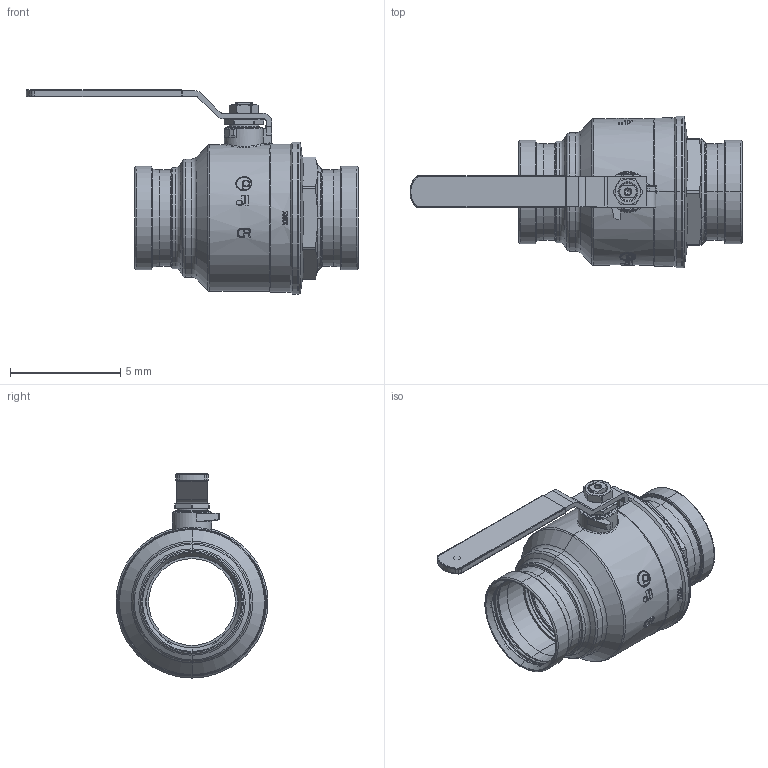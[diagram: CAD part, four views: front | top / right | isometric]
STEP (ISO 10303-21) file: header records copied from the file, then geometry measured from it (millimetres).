
FILE_DESCRIPTION(('Open CASCADE Model'),'2;1');
FILE_NAME('Open CASCADE Shape Model','2022-05-20T16:56:16',('Author'),( 'Open CASCADE'),'Open CASCADE STEP processor 7.3','Open CASCADE 7.3' ,'Unknown');
FILE_SCHEMA(('AUTOMOTIVE_DESIGN { 1 0 10303 214 1 1 1 1 }'));
Length unit declared in the file: millimetre
Products named in the file (25): Open CASCADE STEP translator 7.3 1; Open CASCADE STEP translator 7.3 1.1; Open CASCADE STEP translator 7.3 1.2; Open CASCADE STEP translator 7.3 1.3; Open CASCADE STEP translator 7.3 1.4; Open CASCADE STEP translator 7.3 1.5; Open CASCADE STEP translator 7.3 1.6; Open CASCADE STEP translator 7.3 1.7; Open CASCADE STEP translator 7.3 1.8; Open CASCADE STEP translator 7.3 1.9; Open CASCADE STEP translator 7.3 1.10; Open CASCADE STEP translator 7.3 1.11; Open CASCADE STEP translator 7.3 1.12; Open CASCADE STEP translator 7.3 1.13; Open CASCADE STEP translator 7.3 1.14; Open CASCADE STEP translator 7.3 1.15; Open CASCADE STEP translator 7.3 1.16; Open CASCADE STEP translator 7.3 1.17; Open CASCADE STEP translator 7.3 1.18; Open CASCADE STEP translator 7.3 1.19; Open CASCADE STEP translator 7.3 1.20; Open CASCADE STEP translator 7.3 1.21; Open CASCADE STEP translator 7.3 1.22; Open CASCADE STEP translator 7.3 1.23; Open CASCADE STEP translator 7.3 1.24
Assembly tree (24 placements, depth 2):
  Open CASCADE STEP translator 7.3 1
    Open CASCADE STEP translator 7.3 1.1
    Open CASCADE STEP translator 7.3 1.2
    Open CASCADE STEP translator 7.3 1.3
    Open CASCADE STEP translator 7.3 1.4
    Open CASCADE STEP translator 7.3 1.5
    Open CASCADE STEP translator 7.3 1.6
    Open CASCADE STEP translator 7.3 1.7
    Open CASCADE STEP translator 7.3 1.8
    Open CASCADE STEP translator 7.3 1.9
    Open CASCADE STEP translator 7.3 1.10
    Open CASCADE STEP translator 7.3 1.11
    Open CASCADE STEP translator 7.3 1.12
    Open CASCADE STEP translator 7.3 1.13
    Open CASCADE STEP translator 7.3 1.14
    Open CASCADE STEP translator 7.3 1.15
    Open CASCADE STEP translator 7.3 1.16
    Open CASCADE STEP translator 7.3 1.17
    Open CASCADE STEP translator 7.3 1.18
    Open CASCADE STEP translator 7.3 1.19
    Open CASCADE STEP translator 7.3 1.20
    Open CASCADE STEP translator 7.3 1.21
    Open CASCADE STEP translator 7.3 1.22
    Open CASCADE STEP translator 7.3 1.23
    Open CASCADE STEP translator 7.3 1.24
Bounding box: 15.05 x 6.89 x 9.25 mm (x, y, z)
Volume: 77.5 mm3; surface area: 951.5 mm2
Topology: 16 solids, 24 shells, 996 faces, 2494 edges, 1565 vertices
Faces by surface type: extrusion 279, cylinder 227, plane 216, cone 128, torus 107, revolution 24, sphere 8, bspline 7
Entity records: 85543 total; most frequent: CARTESIAN_POINT 38934, DIRECTION 7371, ORIENTED_EDGE 4930, PCURVE 4930, DEFINITIONAL_REPRESENTATION 4930, VECTOR 4071, LINE 3792, B_SPLINE_CURVE_WITH_KNOTS 2758
